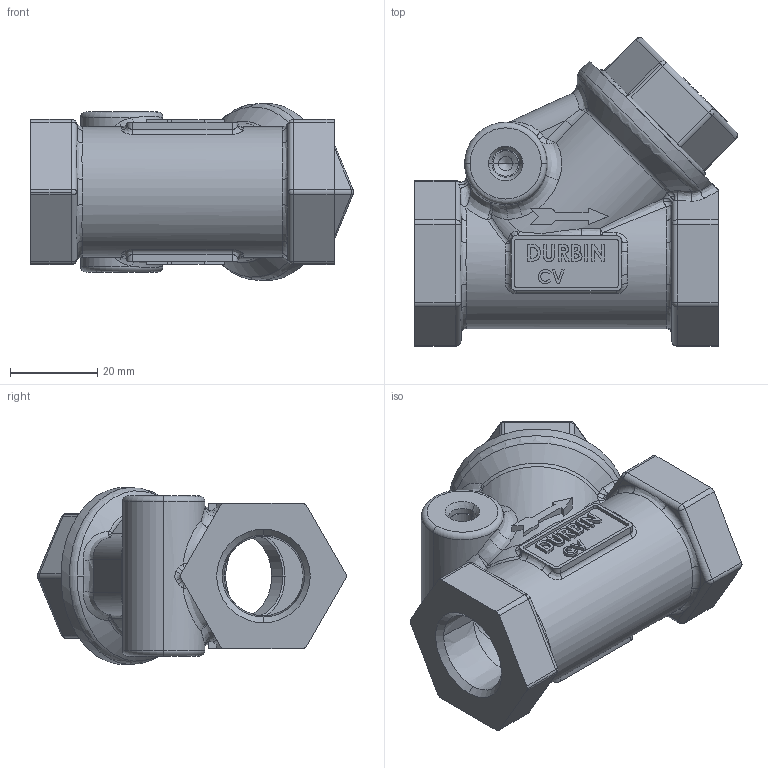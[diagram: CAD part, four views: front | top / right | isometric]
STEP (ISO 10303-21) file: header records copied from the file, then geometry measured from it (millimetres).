
FILE_DESCRIPTION (( 'STEP AP203' ), '1' );
FILE_NAME ('.50-.75 2W NPT CV-STEP.STEP', '2018-11-07T16:15:11', ( '' ), ( '' ), 'SwSTEP 2.0', 'SolidWorks 2012', '' );
FILE_SCHEMA (( 'CONFIG_CONTROL_DESIGN' ));
Length unit declared in the file: inch
Products named in the file (3): .50-.75 2W NPT CV-STEP; CV100-SS; CV106-SS
Assembly tree (2 placements, depth 2):
  .50-.75 2W NPT CV-STEP
    CV106-SS
    CV100-SS
Bounding box: 74.15 x 70.92 x 40.63 mm (x, y, z)
Volume: 51340.1 mm3; surface area: 27125.3 mm2
Topology: 2 solids, 2 shells, 995 faces, 2536 edges, 1599 vertices
Faces by surface type: plane 486, bspline 276, cylinder 111, torus 61, sphere 37, cone 24
Entity records: 44679 total; most frequent: CARTESIAN_POINT 22241, ORIENTED_EDGE 5014, DIRECTION 3858, EDGE_CURVE 2507, VERTEX_POINT 1595, LINE 1416, VECTOR 1416, AXIS2_PLACEMENT_3D 1221
